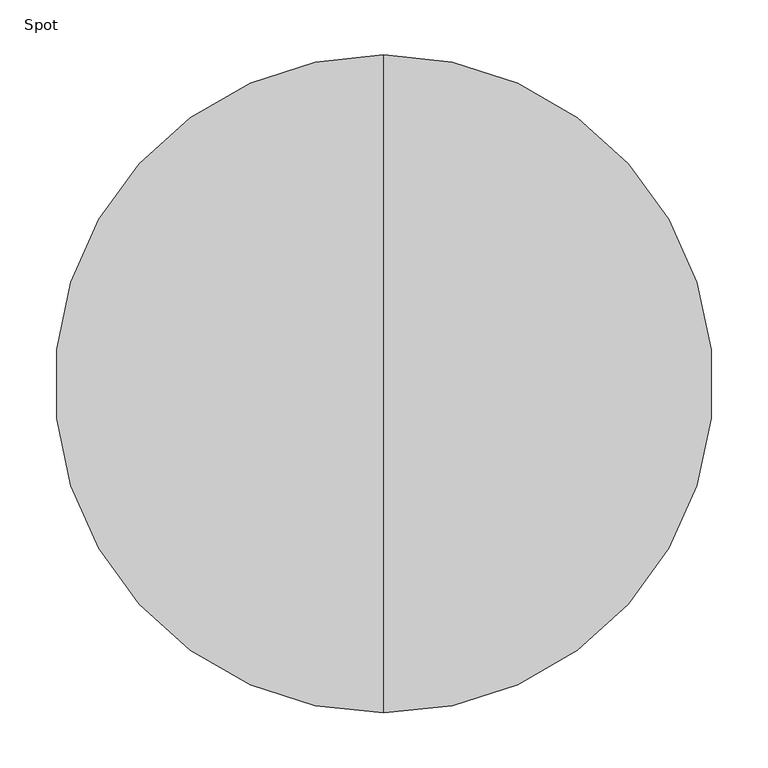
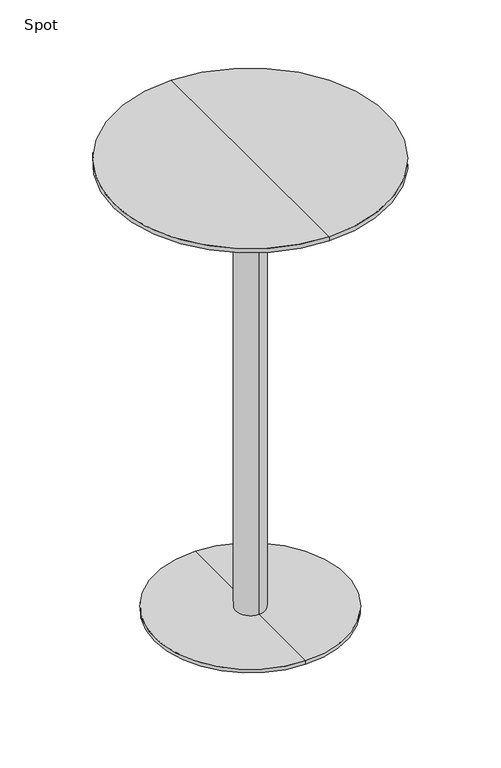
"""IFC4 building model written with IfcOpenShell, lengths in millimetres: furniture geometry, Spot : Bø60x105."""

from ifc_helpers import new_model, si_unit, frame, origin, place, context, project, spatial, polyline, circle_curve, source, transform, mapped, element, save
from ifc_brep_helpers import plane_surface, cylinder_surface, revolved_surface, advanced_brep


def spot_f8519775(model_context):
    return source(origin(), model_context, "Body", "AdvancedBrep", [
        advanced_brep(
        [(0.0, -300.0, 1050.0), (0.0, 300.0, 1050.0), (0.0, 0.0, 1050.0), (0.0, 300.0, 1040.25), (0.0, -300.0, 1040.25), (0.0, 0.0, 1028.0), (0.0, -254.2823776, 1028.0), (0.0, 254.2823776, 1028.0)],
        [
            (0, 1, circle_curve(frame((0.0, 0.0, 1050.0), z_axis=(0.0, 0.0, 1.0), x_axis=(0.0, -1.0, 0.0)), 300.0)),
            (1, 2),
            (2, 0),
            (3, 4, circle_curve(frame((0.0, 0.0, 1040.25), z_axis=(0.0, 0.0, 1.0), x_axis=(0.0, -1.0, 0.0)), 300.0)),
            (4, 0),
            (0, 1, circle_curve(frame((0.0, 0.0, 1050.0), z_axis=(0.0, 0.0, -1.0), x_axis=(0.0, -1.0, 0.0)), 300.0)),
            (1, 3),
            (5, 6),
            (6, 7, circle_curve(frame((0.0, 0.0, 1028.0), z_axis=(0.0, 0.0, -1.0), x_axis=(0.0, -1.0, 0.0)), 254.2823776)),
            (7, 5),
            (7, 6, circle_curve(frame((0.0, 0.0, 1028.0), z_axis=(0.0, 0.0, -1.0), x_axis=(0.0, -1.0, 0.0)), 254.2823776)),
            (4, 3, circle_curve(frame((0.0, 0.0, 1040.25), z_axis=(0.0, 0.0, 1.0), x_axis=(0.0, -1.0, 0.0)), 300.0)),
            (6, 4),
            (3, 7),
        ],
        [
            plane_surface(frame((0.0, 0.0, 1050.0), z_axis=(0.0, 0.0, 1.0), x_axis=(0.0, -1.0, 0.0))),
            cylinder_surface(frame((0.0, 0.0, 1130.0), z_axis=(0.0, 0.0, -1.0), x_axis=(0.0, -1.0, 0.0)), 300.0),
            plane_surface(frame((0.0, 0.0, 1028.0), z_axis=(0.0, 0.0, -1.0), x_axis=(0.0, -1.0, 0.0))),
            revolved_surface(polyline([(0.0, -300.0, 1040.25), (0.0, -254.2823776, 1028.0)]), (0.0, 0.0, 1130.0), (0.0, 0.0, -1.0)),
        ],
        [
            (0, [[1, 2, 3]]),
            (1, [[4, 5, 6, 7]]),
            (2, [[8, 9, 10]]),
            (2, [[-10, 11, -8]]),
            (0, [[-6, -3, -2]]),
            (1, [[12, -7, -1, -5]]),
            (3, [[-9, 13, -4, 14]]),
            (3, [[-11, -14, -12, -13]]),
        ],
    ),
        advanced_brep(
        [(0.0, 32.0, 10.0), (0.0, -32.0, 10.0), (0.0, -32.0, 997.406916), (0.0, 32.0, 997.406916), (0.0, 210.0, 10.0), (0.0, -210.0, 10.0), (0.0, 210.0, 2.0), (0.0, -210.0, 2.0), (0.0, 0.0, 2.0), (0.0, 150.0, 1028.0), (0.0, -150.0, 1028.0), (0.0, 0.0, 1028.0), (0.0, 150.0, 1016.7213673), (0.0, -150.0, 1016.7213673)],
        [
            (0, 1, circle_curve(frame((0.0, 0.0, 10.0), z_axis=(0.0, 0.0, 1.0), x_axis=(0.0, -1.0, 0.0)), 32.0)),
            (1, 2),
            (2, 3, circle_curve(frame((0.0, 0.0, 997.406916), z_axis=(0.0, 0.0, -1.0), x_axis=(0.0, -1.0, 0.0)), 32.0)),
            (3, 0),
            (1, 0, circle_curve(frame((0.0, 0.0, 10.0), z_axis=(0.0, 0.0, 1.0), x_axis=(0.0, -1.0, 0.0)), 32.0)),
            (3, 2, circle_curve(frame((0.0, 0.0, 997.406916), z_axis=(0.0, 0.0, -1.0), x_axis=(0.0, -1.0, 0.0)), 32.0)),
            (4, 5, circle_curve(frame((0.0, 0.0, 10.0), z_axis=(0.0, 0.0, 1.0), x_axis=(0.0, -1.0, 0.0)), 210.0)),
            (5, 1),
            (0, 4),
            (5, 4, circle_curve(frame((0.0, 0.0, 10.0), z_axis=(0.0, 0.0, 1.0), x_axis=(0.0, -1.0, 0.0)), 210.0)),
            (6, 7, circle_curve(frame((0.0, 0.0, 2.0), z_axis=(0.0, 0.0, 1.0), x_axis=(0.0, -1.0, 0.0)), 210.0)),
            (7, 5),
            (4, 6),
            (7, 6, circle_curve(frame((0.0, 0.0, 2.0), z_axis=(0.0, 0.0, 1.0), x_axis=(0.0, -1.0, 0.0)), 210.0)),
            (8, 7),
            (6, 8),
            (9, 10, circle_curve(frame((0.0, 0.0, 1028.0), z_axis=(0.0, 0.0, 1.0), x_axis=(0.0, -1.0, 0.0)), 150.0)),
            (10, 11),
            (11, 9),
            (10, 9, circle_curve(frame((0.0, 0.0, 1028.0), z_axis=(0.0, 0.0, 1.0), x_axis=(0.0, -1.0, 0.0)), 150.0)),
            (12, 13, circle_curve(frame((0.0, 0.0, 1016.7213673), z_axis=(0.0, 0.0, 1.0), x_axis=(0.0, -1.0, 0.0)), 150.0)),
            (13, 10),
            (9, 12),
            (13, 12, circle_curve(frame((0.0, 0.0, 1016.7213673), z_axis=(0.0, 0.0, 1.0), x_axis=(0.0, -1.0, 0.0)), 150.0)),
            (2, 13),
            (12, 3),
        ],
        [
            cylinder_surface(frame((0.0, 0.0, 1390.0), z_axis=(0.0, 0.0, -1.0), x_axis=(0.0, -1.0, 0.0)), 32.0),
            plane_surface(frame((0.0, 0.0, 10.0), z_axis=(0.0, 0.0, 1.0), x_axis=(0.0, -1.0, 0.0))),
            cylinder_surface(frame((0.0, 0.0, 1390.0), z_axis=(0.0, 0.0, -1.0), x_axis=(0.0, -1.0, 0.0)), 210.0),
            plane_surface(frame((0.0, 0.0, 2.0), z_axis=(0.0, 0.0, -1.0), x_axis=(0.0, -1.0, 0.0))),
            plane_surface(frame((0.0, 0.0, 1028.0), z_axis=(0.0, 0.0, 1.0), x_axis=(0.0, -1.0, 0.0))),
            cylinder_surface(frame((0.0, 0.0, 1390.0), z_axis=(0.0, 0.0, -1.0), x_axis=(0.0, -1.0, 0.0)), 150.0),
            revolved_surface(polyline([(0.0, -150.0, 1016.7213673), (0.0, -32.0, 997.406916)]), (0.0, 0.0, 1390.0), (0.0, 0.0, -1.0)),
        ],
        [
            (0, [[1, 2, 3, 4]]),
            (0, [[5, -4, 6, -2]]),
            (1, [[7, 8, -1, 9]]),
            (1, [[10, -9, -5, -8]]),
            (2, [[11, 12, -7, 13]]),
            (2, [[14, -13, -10, -12]]),
            (3, [[15, -11, 16]]),
            (3, [[-16, -14, -15]]),
            (4, [[17, 18, 19]]),
            (4, [[20, -19, -18]]),
            (5, [[21, 22, -17, 23]]),
            (5, [[24, -23, -20, -22]]),
            (6, [[-3, 25, -21, 26]]),
            (6, [[-6, -26, -24, -25]]),
        ],
    ),
    ])


if __name__ == "__main__":
    model = new_model("IFC4")
    model_context = context("Model", 3, world=origin())
    ifc_project = project(units=[si_unit("LENGTHUNIT", "METRE", prefix="MILLI")], contexts=[model_context])
    site = spatial("IfcSite", under=ifc_project)
    building = spatial("IfcBuilding", under=site)
    placement = place(None, origin())
    spot_shape = spot_f8519775(model_context)
    element("IfcFurniture", 1, ObjectType="Spot : Bø60x105", at=placement, inside=building, context=model_context, shape_type="MappedRepresentation", body=[
        mapped(spot_shape, transform((0.0, 0.0, 0.0), x_axis=(1.0, 0.0, 0.0), y_axis=(0.0, 1.0, 0.0), z_axis=(0.0, 0.0, 1.0))),
    ])
    save(model, "model.ifc")
